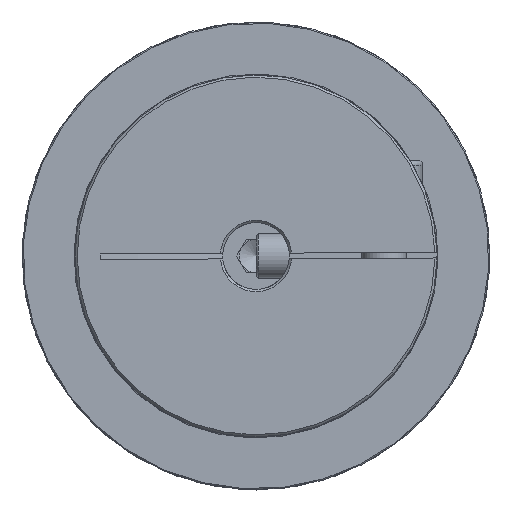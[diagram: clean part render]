
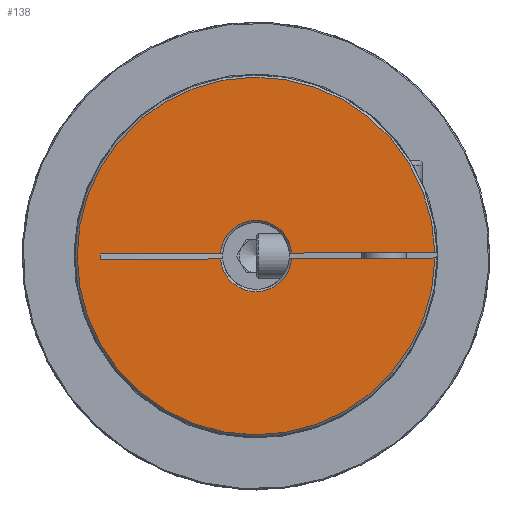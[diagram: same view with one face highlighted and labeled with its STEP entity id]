
A CAD part, left-side view. The second image highlights one B-rep face of the part: STEP entity #138.
In plain terms, the highlighted planar face has unit normal (-1, 0, 0).
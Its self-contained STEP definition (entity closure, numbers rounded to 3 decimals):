
#138 = ADVANCED_FACE( 'NONE', ( #238 ), #239, .F. );
#238 = FACE_OUTER_BOUND( '', #371, .T. );
#239 = PLANE( '', #372 );
#371 = EDGE_LOOP( '', ( #677, #678, #679, #680, #681, #682, #683, #684 ) );
#372 = AXIS2_PLACEMENT_3D( '', #685, #686, #687 );
#677 = ORIENTED_EDGE( '', *, *, #1411, .T. );
#678 = ORIENTED_EDGE( '', *, *, #1412, .T. );
#679 = ORIENTED_EDGE( '', *, *, #1413, .T. );
#680 = ORIENTED_EDGE( '', *, *, #1414, .T. );
#681 = ORIENTED_EDGE( '', *, *, #1415, .F. );
#682 = ORIENTED_EDGE( '', *, *, #1416, .T. );
#683 = ORIENTED_EDGE( '', *, *, #1417, .F. );
#684 = ORIENTED_EDGE( '', *, *, #1418, .T. );
#685 = CARTESIAN_POINT( '', ( 0., 16.25, 0. ) );
#686 = DIRECTION( '', ( 1., 0., 0. ) );
#687 = DIRECTION( '', ( 0., 1., 0. ) );
#1411 = EDGE_CURVE( 'NONE', #2036, #2037, #2038, .T. );
#1412 = EDGE_CURVE( 'NONE', #2037, #2039, #2040, .T. );
#1413 = EDGE_CURVE( 'NONE', #2039, #2041, #2042, .T. );
#1414 = EDGE_CURVE( 'NONE', #2041, #2043, #2044, .F. );
#1415 = EDGE_CURVE( 'NONE', #2045, #2043, #2046, .F. );
#1416 = EDGE_CURVE( 'NONE', #2045, #2047, #2048, .T. );
#1417 = EDGE_CURVE( 'NONE', #2049, #2047, #2050, .F. );
#1418 = EDGE_CURVE( 'NONE', #2049, #2036, #2051, .T. );
#2036 = VERTEX_POINT( 'NONE', #3220 );
#2037 = VERTEX_POINT( 'NONE', #3221 );
#2038 = LINE( '', #3222, #3223 );
#2039 = VERTEX_POINT( 'NONE', #3224 );
#2040 = CIRCLE( '', #3225, 3.2 );
#2041 = VERTEX_POINT( 'NONE', #3226 );
#2042 = LINE( '', #3227, #3228 );
#2043 = VERTEX_POINT( 'NONE', #3229 );
#2044 = CIRCLE( '', #3230, 16.05 );
#2045 = VERTEX_POINT( 'NONE', #3231 );
#2046 = LINE( '', #3232, #3233 );
#2047 = VERTEX_POINT( 'NONE', #3234 );
#2048 = CIRCLE( '', #3235, 3.2 );
#2049 = VERTEX_POINT( 'NONE', #3236 );
#2050 = LINE( '', #3237, #3238 );
#2051 = LINE( '', #3239, #3240 );
#3220 = CARTESIAN_POINT( '', ( 0., 0.25, -13.976 ) );
#3221 = CARTESIAN_POINT( '', ( 0., 0.25, -3.19 ) );
#3222 = CARTESIAN_POINT( '', ( 0., 0.25, 0. ) );
#3223 = VECTOR( '', #3744, 1000. );
#3224 = CARTESIAN_POINT( '', ( 0., 0.25, 3.19 ) );
#3225 = AXIS2_PLACEMENT_3D( '', #3745, #3746, #3747 );
#3226 = CARTESIAN_POINT( '', ( 0., 0.25, 16.048 ) );
#3227 = CARTESIAN_POINT( '', ( 0., 0.25, 0. ) );
#3228 = VECTOR( '', #3748, 1000. );
#3229 = CARTESIAN_POINT( '', ( 0., -0.25, 16.048 ) );
#3230 = AXIS2_PLACEMENT_3D( '', #3749, #3750, #3751 );
#3231 = CARTESIAN_POINT( '', ( 0., -0.25, 3.19 ) );
#3232 = CARTESIAN_POINT( '', ( 0., -0.25, 7. ) );
#3233 = VECTOR( '', #3752, 1000. );
#3234 = CARTESIAN_POINT( '', ( 0., -0.25, -3.19 ) );
#3235 = AXIS2_PLACEMENT_3D( '', #3753, #3754, #3755 );
#3236 = CARTESIAN_POINT( '', ( 0., -0.25, -13.976 ) );
#3237 = CARTESIAN_POINT( '', ( 0., -0.25, 7. ) );
#3238 = VECTOR( '', #3756, 1000. );
#3239 = CARTESIAN_POINT( '', ( 0., -0.25, -13.976 ) );
#3240 = VECTOR( '', #3757, 1000. );
#3744 = DIRECTION( '', ( 0., 0., 1. ) );
#3745 = CARTESIAN_POINT( '', ( 0., 0., 0. ) );
#3746 = DIRECTION( '', ( 1., 0., 0. ) );
#3747 = DIRECTION( '', ( 0., 0., -1. ) );
#3748 = DIRECTION( '', ( 0., 0., 1. ) );
#3749 = CARTESIAN_POINT( '', ( 0., 0., 0. ) );
#3750 = DIRECTION( '', ( 1., 0., 0. ) );
#3751 = DIRECTION( '', ( 0., 0., -1. ) );
#3752 = DIRECTION( '', ( 0., 0., -1. ) );
#3753 = CARTESIAN_POINT( '', ( 0., 0., 0. ) );
#3754 = DIRECTION( '', ( 1., 0., 0. ) );
#3755 = DIRECTION( '', ( 0., 0., -1. ) );
#3756 = DIRECTION( '', ( 0., 0., -1. ) );
#3757 = DIRECTION( '', ( 0., 1., 0. ) );
